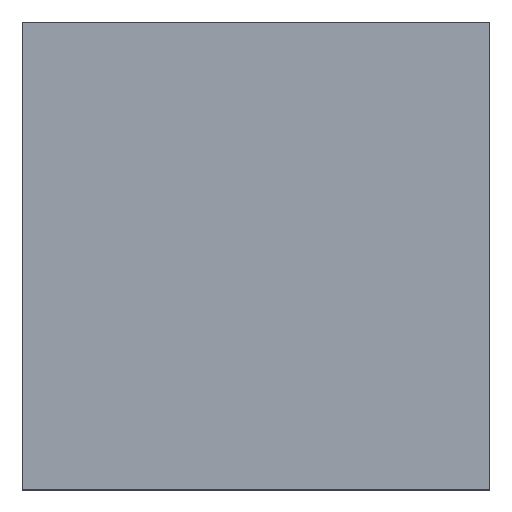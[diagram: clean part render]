
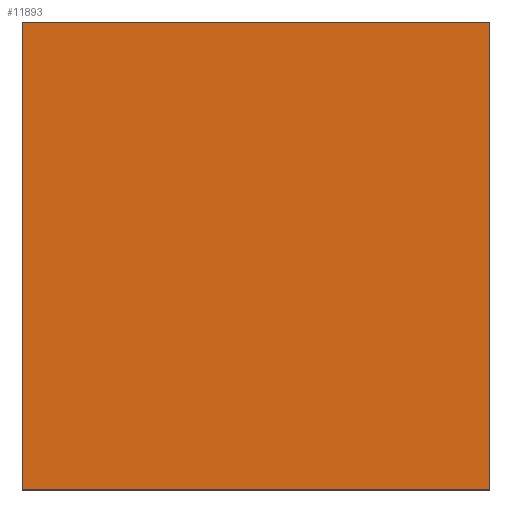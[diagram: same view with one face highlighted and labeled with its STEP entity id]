
A CAD part, top view. The second image highlights one B-rep face of the part: STEP entity #11893.
In plain terms, the highlighted planar face has unit normal (0, 0, 1).
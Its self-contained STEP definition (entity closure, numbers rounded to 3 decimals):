
#11854=CARTESIAN_POINT('',(0.,0.,20.));
#11855=DIRECTION('',(1.,0.,0.));
#11856=DIRECTION('',(0.,0.,1.));
#11857=AXIS2_PLACEMENT_3D('',#11854,#11856,#11855);
#11858=PLANE('',#11857);
#11859=CARTESIAN_POINT('',(548.5,-548.5,20.));
#11860=VERTEX_POINT('',#11859);
#11861=CARTESIAN_POINT('',(548.5,548.5,20.));
#11862=VERTEX_POINT('',#11861);
#11863=CARTESIAN_POINT('',(548.5,-548.5,20.));
#11864=DIRECTION('',(0.,1.,0.));
#11865=VECTOR('',#11864,1097.);
#11866=LINE('',#11863,#11865);
#11867=EDGE_CURVE('',#11860,#11862,#11866,.T.);
#11868=ORIENTED_EDGE('E118',*,*,#11867,.T.);
#11869=CARTESIAN_POINT('',(-548.5,548.5,20.));
#11870=VERTEX_POINT('',#11869);
#11871=CARTESIAN_POINT('',(548.5,548.5,20.));
#11872=DIRECTION('',(-1.,0.,0.));
#11873=VECTOR('',#11872,1097.);
#11874=LINE('',#11871,#11873);
#11875=EDGE_CURVE('',#11862,#11870,#11874,.T.);
#11876=ORIENTED_EDGE('E119',*,*,#11875,.T.);
#11877=CARTESIAN_POINT('',(-548.5,-548.5,20.));
#11878=VERTEX_POINT('',#11877);
#11879=CARTESIAN_POINT('',(-548.5,548.5,20.));
#11880=DIRECTION('',(0.,-1.,0.));
#11881=VECTOR('',#11880,1097.);
#11882=LINE('',#11879,#11881);
#11883=EDGE_CURVE('',#11870,#11878,#11882,.T.);
#11884=ORIENTED_EDGE('E120',*,*,#11883,.T.);
#11885=CARTESIAN_POINT('',(-548.5,-548.5,20.));
#11886=DIRECTION('',(1.,0.,0.));
#11887=VECTOR('',#11886,1097.);
#11888=LINE('',#11885,#11887);
#11889=EDGE_CURVE('',#11878,#11860,#11888,.T.);
#11890=ORIENTED_EDGE('E117',*,*,#11889,.T.);
#11891=EDGE_LOOP('',(#11868,#11876,#11884,#11890));
#11892=FACE_OUTER_BOUND('',#11891,.T.);
#11893=ADVANCED_FACE('F2',(#11892),#11858,.T.);
